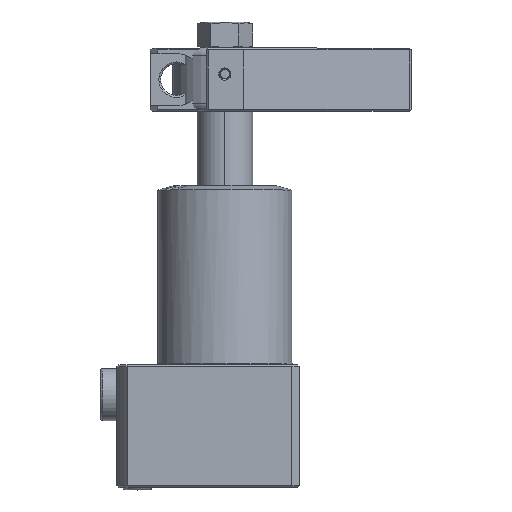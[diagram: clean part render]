
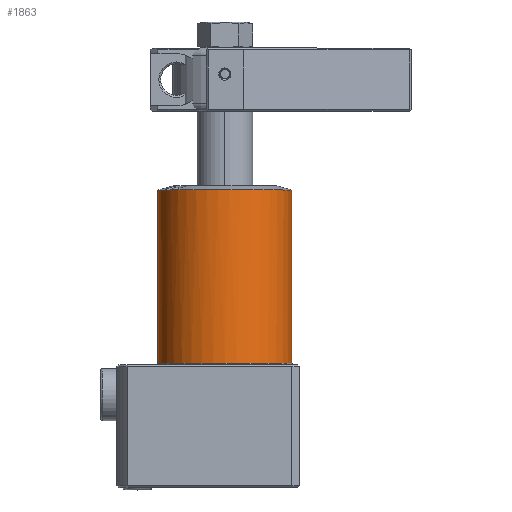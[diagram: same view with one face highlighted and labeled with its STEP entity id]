
A CAD part, top view. The second image highlights one B-rep face of the part: STEP entity #1863.
In plain terms, the highlighted cylindrical face has radius 18 mm (diameter 36 mm), a partial arc.
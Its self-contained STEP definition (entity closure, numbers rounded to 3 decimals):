
#12=DIRECTION('',(0.,-1.,0.));
#13=VECTOR('',#12,0.061);
#14=CARTESIAN_POINT('',(-15.967,71.461,8.31));
#15=LINE('',#14,#13);
#32=DIRECTION('',(0.,-1.,0.));
#33=VECTOR('',#32,0.061);
#34=CARTESIAN_POINT('',(-14.601,71.461,10.526));
#35=LINE('',#34,#33);
#41=DIRECTION('',(0.,1.,0.));
#42=VECTOR('',#41,46.561);
#43=CARTESIAN_POINT('',(-18.,24.9,0.));
#44=LINE('',#43,#42);
#45=DIRECTION('',(0.,-1.,0.));
#46=VECTOR('',#45,46.561);
#47=CARTESIAN_POINT('',(18.,71.461,0.));
#48=LINE('',#47,#46);
#49=CARTESIAN_POINT('',(0.,24.9,0.));
#50=DIRECTION('',(0.,-1.,0.));
#51=DIRECTION('',(1.,0.,0.));
#52=AXIS2_PLACEMENT_3D('',#49,#50,#51);
#64=CARTESIAN_POINT('',(0.,71.461,0.));
#65=DIRECTION('',(0.,-1.,0.));
#66=DIRECTION('',(-0.887,0.,0.462));
#67=AXIS2_PLACEMENT_3D('',#64,#65,#66);
#74=CARTESIAN_POINT('',(0.,71.461,0.));
#75=DIRECTION('',(0.,-1.,0.));
#76=DIRECTION('',(1.,0.,0.));
#77=AXIS2_PLACEMENT_3D('',#74,#75,#76);
#1368=CARTESIAN_POINT('',(0.,71.4,0.));
#1369=DIRECTION('',(0.,-1.,0.));
#1370=DIRECTION('',(-0.811,0.,0.585));
#1371=AXIS2_PLACEMENT_3D('',#1368,#1369,#1370);
#1753=CARTESIAN_POINT('',(-18.,71.461,0.));
#1754=CARTESIAN_POINT('',(18.,71.461,0.));
#1755=VERTEX_POINT('',#1753);
#1756=VERTEX_POINT('',#1754);
#1757=CARTESIAN_POINT('',(-14.601,71.461,10.526));
#1758=VERTEX_POINT('',#1757);
#1759=CARTESIAN_POINT('',(-15.967,71.461,8.31));
#1760=VERTEX_POINT('',#1759);
#1761=CARTESIAN_POINT('',(-18.,24.9,0.));
#1762=CARTESIAN_POINT('',(18.,24.9,0.));
#1763=VERTEX_POINT('',#1761);
#1764=VERTEX_POINT('',#1762);
#1789=CARTESIAN_POINT('',(-15.967,71.4,8.31));
#1790=VERTEX_POINT('',#1789);
#1791=CARTESIAN_POINT('',(-14.601,71.4,10.526));
#1792=VERTEX_POINT('',#1791);
#1842=CARTESIAN_POINT('',(0.,76.23,0.));
#1843=DIRECTION('',(0.,-1.,0.));
#1844=DIRECTION('',(-1.,0.,0.));
#1845=AXIS2_PLACEMENT_3D('',#1842,#1843,#1844);
#1846=CYLINDRICAL_SURFACE('',#1845,18.);
#1848=ORIENTED_EDGE('',*,*,#1847,.T.);
#1850=ORIENTED_EDGE('',*,*,#1849,.F.);
#1851=ORIENTED_EDGE('',*,*,#1828,.T.);
#1853=ORIENTED_EDGE('',*,*,#1852,.F.);
#1854=ORIENTED_EDGE('',*,*,#1835,.F.);
#1856=ORIENTED_EDGE('',*,*,#1855,.F.);
#1858=ORIENTED_EDGE('',*,*,#1857,.T.);
#1860=ORIENTED_EDGE('',*,*,#1859,.T.);
#1861=EDGE_LOOP('',(#1848,#1850,#1851,#1853,#1854,#1856,#1858,#1860));
#1862=FACE_OUTER_BOUND('',#1861,.F.);
#1863=ADVANCED_FACE('',(#1862),#1846,.T.);
#53=CIRCLE('',#52,18.);
#68=CIRCLE('',#67,18.);
#78=CIRCLE('',#77,18.);
#1372=CIRCLE('',#1371,18.);
#1828=EDGE_CURVE('',#1760,#1790,#15,.T.);
#1835=EDGE_CURVE('',#1758,#1792,#35,.T.);
#1847=EDGE_CURVE('',#1763,#1755,#44,.T.);
#1849=EDGE_CURVE('',#1760,#1755,#68,.T.);
#1852=EDGE_CURVE('',#1792,#1790,#1372,.T.);
#1855=EDGE_CURVE('',#1756,#1758,#78,.T.);
#1857=EDGE_CURVE('',#1756,#1764,#48,.T.);
#1859=EDGE_CURVE('',#1764,#1763,#53,.T.);
